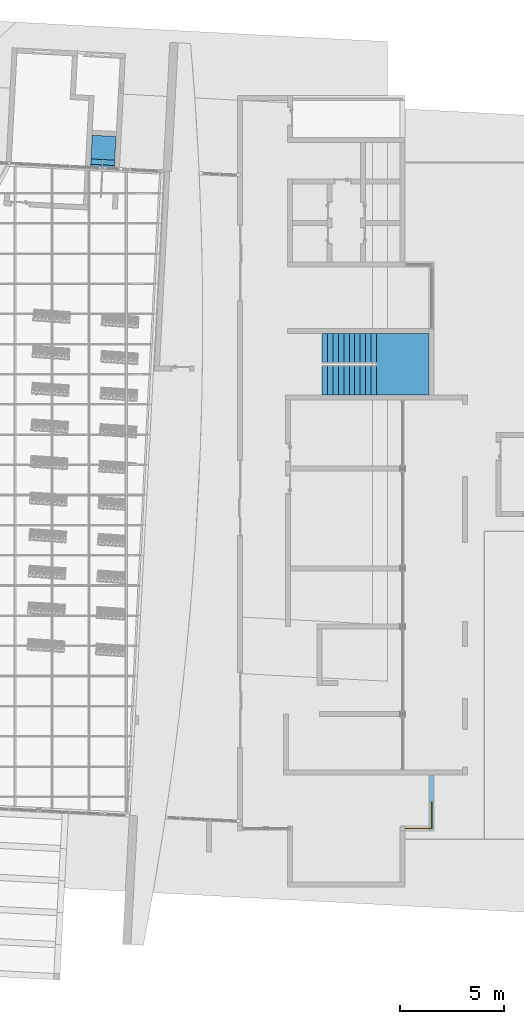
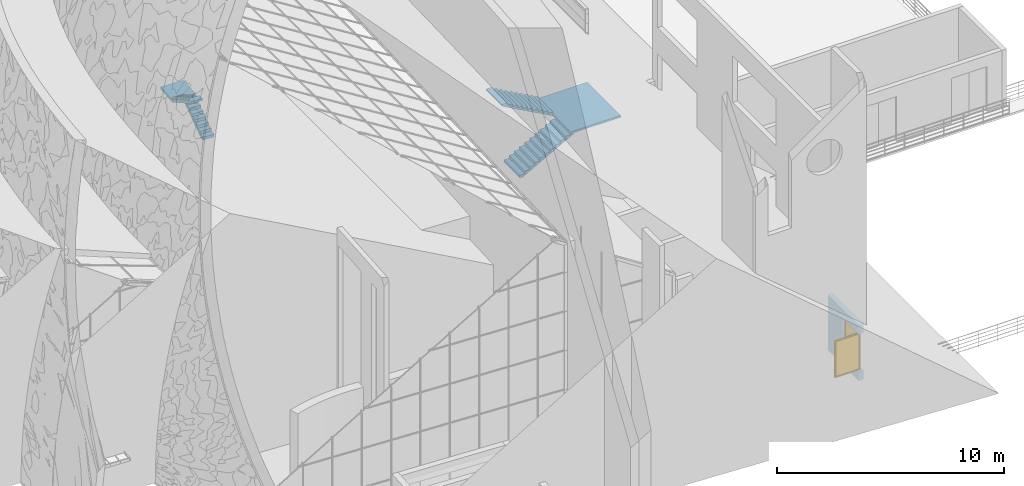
# One storey, part 71 of 82: 2 stair flights, 1 window, 1 opening, 2 elements without a shape of their own, plus 1 element that does not belong to this part.
"""IFC2X3 building model written with IfcOpenShell, lengths in millimetres."""

from ifc_helpers import new_model, entity, si_unit, converted_unit, derived_unit, direction, frame, frame_2d, origin, place, context, subcontext, project, spatial, rectangle, extrude, faceted_brep, source, transform, mapped, material, material_list, layer, layer_set, layer_usage, type_object, type_shapes, element, fill, aggregate, save


model = new_model("IFC2X3")

# Units and contexts
model_context = context("Model", 3, precision=0.01, world=origin(), true_north=direction((6.12303176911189e-17, 1.0)))
body_context = subcontext(model_context, "Body", "Model", "MODEL_VIEW")
ifc_project = project(units=[si_unit("LENGTHUNIT", "METRE", prefix="MILLI"), si_unit("AREAUNIT", "SQUARE_METRE"), si_unit("VOLUMEUNIT", "CUBIC_METRE"), converted_unit("PLANEANGLEUNIT", "DEGREE", entity("IfcRatioMeasure", 0.0174532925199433), si_unit("PLANEANGLEUNIT", "RADIAN"), dimensions=[0, 0, 0, 0, 0, 0, 0]), si_unit("MASSUNIT", "GRAM", prefix="KILO"), derived_unit("MASSDENSITYUNIT", [(si_unit("MASSUNIT", "GRAM", prefix="KILO"), 1), (si_unit("LENGTHUNIT", "METRE"), -3)]), si_unit("TIMEUNIT", "SECOND"), si_unit("FREQUENCYUNIT", "HERTZ"), si_unit("THERMODYNAMICTEMPERATUREUNIT", "DEGREE_CELSIUS"), derived_unit("THERMALTRANSMITTANCEUNIT", [(si_unit("MASSUNIT", "GRAM", prefix="KILO"), 1), (si_unit("THERMODYNAMICTEMPERATUREUNIT", "KELVIN"), -1), (si_unit("TIMEUNIT", "SECOND"), -3)]), derived_unit("VOLUMETRICFLOWRATEUNIT", [(si_unit("LENGTHUNIT", "METRE"), 3), (si_unit("TIMEUNIT", "SECOND"), -1)]), si_unit("ELECTRICCURRENTUNIT", "AMPERE"), si_unit("ELECTRICVOLTAGEUNIT", "VOLT"), si_unit("POWERUNIT", "WATT"), si_unit("FORCEUNIT", "NEWTON", prefix="KILO"), si_unit("ILLUMINANCEUNIT", "LUX"), si_unit("LUMINOUSFLUXUNIT", "LUMEN"), si_unit("LUMINOUSINTENSITYUNIT", "CANDELA"), derived_unit("USERDEFINED", [(si_unit("MASSUNIT", "GRAM", prefix="KILO"), -1), (si_unit("LENGTHUNIT", "METRE"), -2), (si_unit("TIMEUNIT", "SECOND"), 3), (si_unit("LUMINOUSFLUXUNIT", "LUMEN"), 1)]), derived_unit("LINEARVELOCITYUNIT", [(si_unit("LENGTHUNIT", "METRE"), 1), (si_unit("TIMEUNIT", "SECOND"), -1)]), si_unit("PRESSUREUNIT", "PASCAL"), derived_unit("USERDEFINED", [(si_unit("LENGTHUNIT", "METRE"), -2), (si_unit("MASSUNIT", "GRAM", prefix="KILO"), 1), (si_unit("TIMEUNIT", "SECOND"), -2)])], contexts=[model_context])

# Site, building, storey
site_placement = place(None, origin())
site = spatial("IfcSite", under=ifc_project, at=site_placement, Name="表面", CompositionType="ELEMENT")
building_placement = place(site_placement, origin())
building = spatial("IfcBuilding", under=site, at=building_placement, CompositionType="ELEMENT")
storey_placement = place(building_placement, origin())
storey = spatial("IfcBuildingStorey", under=building, at=storey_placement, Name="1F", CompositionType="ELEMENT", Elevation=0.0)

# Wall, opening, window
ifc_material_1 = material(Name="白色涂料")
ifc_layer_1 = layer(ifc_material_1, 10.0)
ifc_material_2 = material(Name="默认墙")
ifc_layer_2 = layer(ifc_material_2, 220.0)
ifc_layer_3 = layer(ifc_material_1, 10.0)
ifc_layer_set = layer_set([ifc_layer_1, ifc_layer_2, ifc_layer_3], Name="基本墙:粉刷墙240")
ifc_layer_usage = layer_usage(ifc_layer_set, "AXIS2", "NEGATIVE", 120.0)
wall_type = type_object("IfcWallType", Name="基本墙:粉刷墙240", PredefinedType="STANDARD", material=ifc_layer_set)
wall_placement = place(storey_placement, frame((-5230.24991264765, -26836.868426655, 0.0), z_axis=(0.0, 0.0, 1.0), x_axis=(0.0, -1.0, 0.0)))
wall = element("IfcWallStandardCase", 1, at=wall_placement, inside=storey, type_object=wall_type, material=ifc_layer_usage, Name="基本墙:粉刷墙240", ObjectType="基本墙:粉刷墙240", context=body_context, shape_type="SweptSolid", body=[
    extrude(rectangle(XDim=2700.0, YDim=240.0, at=frame_2d((1350.0, 2.8421709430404e-14), x_axis=(-1.0, 0.0))), origin(), (0.0, 0.0, 1.0), 3000.00000000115),
])
opening_placement = place(wall_placement, frame((2700.0, -1280.0, 500.0), z_axis=(0.0, 0.0, 1.0), x_axis=(0.0, 1.0, 0.0)))
opening = element("IfcOpeningElement", 2, at=opening_placement, cuts=wall, Name="基本墙:粉刷墙240", ObjectType="Opening", context=body_context, shape_type="Brep", body=[
    faceted_brep([(1160.0, 1420.0, 0.0), (1160.0, 1420.0, 2000.0), (1400.0, 1420.0, 2000.0), (1400.0, 1420.0, 0.0), (1160.0, 240.0, 0.0), (1160.0, 240.0, 2000.0), (0.0, 240.0, 2000.0), (0.0, 0.0, 2000.0), (1400.0, 0.0, 2000.0), (1400.0, 0.0, 0.0), (0.0, 0.0, 0.0), (0.0, 240.0, 0.0)], [[[0, 1, 2, 3]], [[1, 0, 4, 5]], [[2, 1, 5, 6, 7, 8]], [[3, 2, 8, 9]], [[0, 3, 9, 10, 11, 4]], [[11, 10, 7, 6]], [[5, 4, 11, 6]], [[9, 8, 7, 10]]]),
])
ifc_material_3 = material(Name="玻璃")
ifc_material_4 = material(Name="铝")
ifc_material_list_1 = material_list([ifc_material_3, ifc_material_4])
ifc_material_list_2 = material_list([ifc_material_3, ifc_material_4])
window_style = type_object("IfcWindowStyle", Name="C1313", ConstructionType="NOTDEFINED", OperationType="NOTDEFINED", ParameterTakesPrecedence=False, Sizeable=False, material=ifc_material_list_2)
shared_shape = source(origin(), body_context, "Body", "Brep", [
    faceted_brep([(1310.0, -1340.0, 1940.0), (1310.0, -1340.0, 60.0), (1310.0, -150.0, 60.0), (1310.0, -150.0, 1940.0), (1290.0, -1340.0, 1940.0), (1290.0, -1340.0, 60.0), (1290.0, -150.0, 60.0), (1290.0, -150.0, 1940.0)], [[[0, 1, 2, 3]], [[1, 0, 4, 5]], [[2, 1, 5, 6]], [[3, 2, 6, 7]], [[4, 7, 6, 5]], [[0, 3, 7, 4]]]),
    faceted_brep([(1270.0, -130.0, 1940.0), (60.0, -130.0, 1940.0), (60.0, -130.0, 60.0), (1270.0, -130.0, 60.0), (60.0, -110.0, 1940.0), (60.0, -110.0, 60.0), (1270.0, -110.0, 60.0), (1270.0, -110.0, 1940.0)], [[[0, 1, 2, 3]], [[2, 1, 4, 5]], [[3, 2, 5, 6]], [[0, 3, 6, 7]], [[7, 6, 5, 4]], [[1, 0, 7, 4]]]),
    faceted_brep([(0.0, -90.0, 2000.0), (0.0, -90.0, 0.0), (0.0, -150.0, 0.0), (0.0, -150.0, 2000.0), (1330.0, -90.0, 2000.0), (1330.0, -90.0, 0.0), (1270.0, -90.0, 60.0), (1270.0, -90.0, 1940.0), (60.0, -90.0, 1940.0), (60.0, -90.0, 60.0), (1330.0, -1400.0, 0.0), (1270.0, -1400.0, 0.0), (1270.0, -150.0, 0.0), (1270.0, -150.0, 60.0), (60.0, -150.0, 60.0), (60.0, -150.0, 1940.0), (1270.0, -150.0, 1940.0), (1270.0, -150.0, 2000.0), (1330.0, -1400.0, 2000.0), (1330.0, -1340.0, 1940.0), (1330.0, -150.0, 1940.0), (1330.0, -150.0, 60.0), (1330.0, -1340.0, 60.0), (1270.0, -1400.0, 2000.0), (1270.0, -1340.0, 60.0), (1270.0, -1340.0, 1940.0)], [[[0, 1, 2, 3]], [[1, 0, 4, 5], [6, 7, 8, 9]], [[2, 1, 5, 10, 11, 12]], [[3, 2, 12, 13, 14, 15, 16, 17]], [[5, 4, 18, 10], [19, 20, 21, 22]], [[16, 7, 6, 13]], [[14, 9, 8, 15]], [[13, 6, 9, 14]], [[11, 10, 18, 23]], [[20, 16, 13, 21]], [[21, 13, 24, 22]], [[25, 19, 22, 24]], [[0, 3, 17, 23, 18, 4]], [[7, 16, 15, 8]], [[16, 20, 19, 25]], [[12, 11, 23, 17, 16, 25, 24, 13]]]),
])
type_shapes(window_style, [shared_shape])
window_placement = place(opening_placement, frame((1400.0, 1420.0, 0.0), z_axis=(0.0, 0.0, 1.0), x_axis=(0.0, -1.0, 0.0)))
window = element("IfcWindow", 3, at=window_placement, inside=storey, type_object=window_style, material=ifc_material_list_1, Name="转角窗:C1313", ObjectType="C1313", OverallHeight=2000.00000000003, OverallWidth=2120.0, context=body_context, shape_type="MappedRepresentation", body=[
    mapped(shared_shape, transform((0.0, 0.0, 0.0), scale=1.0)),
])
fill(opening, window)

# Stair, stair flight
stair_1_placement = place(storey_placement, origin())
stair_1 = element("IfcStair", 4, at=stair_1_placement, inside=storey, ShapeType="NOTDEFINED")
ifc_material_5 = material(Name="混凝土 - 现场浇注")
stair_flight_1_placement = place(stair_1_placement, origin())
stair_flight_1 = element("IfcStairFlight", 5, at=stair_flight_1_placement, material=ifc_material_5, Name="楼梯:整体式楼梯:1", ObjectType="楼梯:整体式楼梯", NumberOfRiser=11, NumberOfTreads=10, RiserHeight=0.468691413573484, TreadLength=0.853018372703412, context=body_context, shape_type="Brep", body=[
    faceted_brep([(-10324.1193615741, -7187.84591297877, 0.0), (-7646.11936157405, -7187.84591297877, 1471.42857142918), (-7646.11936157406, -8587.84591297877, 1471.42857142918), (-7890.24991264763, -8587.84591297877, 1337.29090600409), (-10324.1193615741, -8587.84591297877, 0.0), (-7890.24991264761, -7027.84591297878, 1471.42857142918), (-7874.38046372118, -7027.84591297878, 1471.42857142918), (-7874.38046372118, -5627.84591297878, 1471.42857142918), (-5350.24991264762, -5627.84591297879, 1471.42857142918), (-5350.24991264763, -8587.84591297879, 1471.42857142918), (-7890.24991264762, -7187.84591297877, 1471.42857142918), (-7890.24991264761, -7027.84591297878, 1480.14804886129), (-10490.2499126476, -7027.84591297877, 2908.71947743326), (-10490.2499126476, -5627.84591297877, 2908.71947743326), (-10230.2499126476, -7187.84591297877, 142.857142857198), (-10490.2499126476, -7187.84591297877, 142.857142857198), (-10490.2499126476, -8587.84591297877, 142.857142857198), (-10230.2499126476, -8587.84591297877, 142.857142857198), (-10230.2499126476, -7187.84591297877, 285.714285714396), (-9970.24991264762, -7187.84591297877, 285.714285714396), (-9970.24991264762, -7187.84591297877, 428.571428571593), (-9710.24991264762, -7187.84591297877, 428.571428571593), (-9710.24991264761, -7187.84591297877, 571.428571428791), (-9450.24991264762, -7187.84591297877, 571.428571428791), (-9450.24991264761, -7187.84591297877, 714.285714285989), (-9190.24991264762, -7187.84591297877, 714.285714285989), (-9190.24991264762, -7187.84591297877, 857.142857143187), (-8930.24991264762, -7187.84591297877, 857.142857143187), (-8930.24991264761, -7187.84591297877, 1000.0), (-8670.24991264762, -7187.84591297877, 1000.0), (-8670.24991264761, -7187.84591297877, 1142.85714285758), (-8410.24991264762, -7187.84591297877, 1142.85714285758), (-8410.24991264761, -7187.84591297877, 1285.71428571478), (-8150.24991264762, -7187.84591297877, 1285.71428571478), (-8150.24991264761, -7187.84591297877, 1428.57142857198), (-7890.24991264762, -7187.84591297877, 1428.57142857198), (-10490.2499126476, -7187.84591297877, 0.0), (-10490.2499126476, -8587.84591297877, 0.0), (-5350.24991264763, -8587.84591297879, 1571.42857142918), (-7890.24991264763, -8587.84591297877, 1571.42857142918), (-7890.24991264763, -8587.84591297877, 1428.57142857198), (-8150.24991264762, -8587.84591297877, 1428.57142857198), (-8150.24991264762, -8587.84591297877, 1285.71428571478), (-8410.24991264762, -8587.84591297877, 1285.71428571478), (-8410.24991264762, -8587.84591297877, 1142.85714285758), (-8670.24991264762, -8587.84591297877, 1142.85714285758), (-8670.24991264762, -8587.84591297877, 1000.0), (-8930.24991264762, -8587.84591297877, 1000.0), (-8930.24991264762, -8587.84591297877, 857.142857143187), (-9190.24991264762, -8587.84591297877, 857.142857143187), (-9190.24991264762, -8587.84591297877, 714.285714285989), (-9450.24991264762, -8587.84591297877, 714.285714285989), (-9450.24991264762, -8587.84591297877, 571.428571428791), (-9710.24991264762, -8587.84591297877, 571.428571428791), (-9710.24991264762, -8587.84591297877, 428.571428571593), (-9970.24991264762, -8587.84591297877, 428.571428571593), (-9970.24991264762, -8587.84591297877, 285.714285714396), (-10230.2499126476, -8587.84591297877, 285.714285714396), (-5350.24991264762, -5627.84591297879, 1571.42857142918), (-7890.24991264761, -5627.84591297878, 1571.42857142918), (-7890.24991264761, -7027.84591297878, 1571.42857142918), (-7890.24991264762, -7187.84591297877, 1571.42857142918), (-10490.2499126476, -5627.84591297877, 3000.0), (-10230.2499126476, -5627.84591297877, 3000.0), (-10230.2499126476, -5627.84591297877, 2857.14285714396), (-9970.24991264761, -5627.84591297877, 2857.14285714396), (-9970.24991264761, -5627.84591297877, 2714.28571428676), (-9710.24991264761, -5627.84591297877, 2714.28571428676), (-9710.24991264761, -5627.84591297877, 2571.42857142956), (-9450.24991264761, -5627.84591297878, 2571.42857142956), (-9450.24991264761, -5627.84591297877, 2428.57142857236), (-9190.24991264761, -5627.84591297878, 2428.57142857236), (-9190.24991264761, -5627.84591297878, 2285.71428571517), (-8930.24991264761, -5627.84591297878, 2285.71428571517), (-8930.24991264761, -5627.84591297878, 2142.85714285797), (-8670.24991264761, -5627.84591297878, 2142.85714285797), (-8670.24991264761, -5627.84591297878, 2000.0), (-8410.24991264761, -5627.84591297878, 2000.0), (-8410.24991264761, -5627.84591297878, 1857.14285714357), (-8150.24991264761, -5627.84591297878, 1857.14285714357), (-8150.24991264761, -5627.84591297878, 1714.28571428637), (-7890.24991264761, -5627.84591297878, 1714.28571428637), (-8150.24991264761, -7027.84591297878, 1714.28571428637), (-7890.24991264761, -7027.84591297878, 1714.28571428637), (-8150.24991264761, -7027.84591297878, 1857.14285714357), (-8410.24991264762, -7027.84591297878, 1857.14285714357), (-8410.24991264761, -7027.84591297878, 2000.0), (-8670.24991264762, -7027.84591297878, 2000.0), (-8670.24991264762, -7027.84591297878, 2142.85714285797), (-8930.24991264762, -7027.84591297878, 2142.85714285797), (-8930.24991264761, -7027.84591297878, 2285.71428571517), (-9190.24991264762, -7027.84591297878, 2285.71428571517), (-9190.24991264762, -7027.84591297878, 2428.57142857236), (-9450.24991264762, -7027.84591297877, 2428.57142857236), (-9450.24991264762, -7027.84591297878, 2571.42857142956), (-9710.24991264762, -7027.84591297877, 2571.42857142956), (-9710.24991264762, -7027.84591297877, 2714.28571428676), (-9970.24991264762, -7027.84591297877, 2714.28571428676), (-9970.24991264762, -7027.84591297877, 2857.14285714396), (-10230.2499126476, -7027.84591297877, 2857.14285714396), (-10230.2499126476, -7027.84591297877, 3000.0), (-10490.2499126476, -7027.84591297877, 3000.0)], [[[0, 1, 2, 3, 4]], [[5, 6, 7, 8, 9, 2, 1, 10]], [[7, 6, 11, 12, 13]], [[14, 15, 16, 17]], [[15, 14, 18, 19, 20, 21, 22, 23, 24, 25, 26, 27, 28, 29, 30, 31, 32, 33, 34, 35, 10, 1, 0, 36]], [[16, 15, 36, 37]], [[17, 16, 37, 4, 3, 2, 9, 38, 39, 40, 41, 42, 43, 44, 45, 46, 47, 48, 49, 50, 51, 52, 53, 54, 55, 56, 57]], [[19, 18, 57, 56]], [[14, 17, 57, 18]], [[21, 20, 55, 54]], [[20, 19, 56, 55]], [[23, 22, 53, 52]], [[22, 21, 54, 53]], [[25, 24, 51, 50]], [[24, 23, 52, 51]], [[27, 26, 49, 48]], [[26, 25, 50, 49]], [[29, 28, 47, 46]], [[28, 27, 48, 47]], [[31, 30, 45, 44]], [[30, 29, 46, 45]], [[33, 32, 43, 42]], [[32, 31, 44, 43]], [[39, 38, 58, 59, 60, 61]], [[37, 36, 0, 4]], [[6, 5, 11]], [[35, 34, 41, 40]], [[34, 33, 42, 41]], [[61, 60, 11, 5, 10]], [[40, 39, 61, 10, 35]], [[58, 38, 9, 8]], [[59, 58, 8, 7, 13, 62, 63, 64, 65, 66, 67, 68, 69, 70, 71, 72, 73, 74, 75, 76, 77, 78, 79, 80, 81]], [[81, 80, 82, 83]], [[83, 82, 84, 85, 86, 87, 88, 89, 90, 91, 92, 93, 94, 95, 96, 97, 98, 99, 100, 101, 12, 11, 60]], [[60, 59, 81, 83]], [[79, 78, 85, 84]], [[80, 79, 84, 82]], [[77, 76, 87, 86]], [[78, 77, 86, 85]], [[75, 74, 89, 88]], [[76, 75, 88, 87]], [[73, 72, 91, 90]], [[74, 73, 90, 89]], [[71, 70, 93, 92]], [[72, 71, 92, 91]], [[69, 68, 95, 94]], [[70, 69, 94, 93]], [[67, 66, 97, 96]], [[68, 67, 96, 95]], [[65, 64, 99, 98]], [[66, 65, 98, 97]], [[63, 62, 101, 100]], [[64, 63, 100, 99]], [[101, 62, 13, 12]]]),
])
aggregate(stair_1, [stair_flight_1])

stair_2_placement = place(storey_placement, origin())
stair_2 = element("IfcStair", 6, at=stair_2_placement, inside=storey, ShapeType="NOTDEFINED")
stair_flight_2_placement = place(stair_2_placement, origin())
stair_flight_2 = element("IfcStairFlight", 7, at=stair_flight_2_placement, Name="楼梯:室外楼梯:1", ObjectType="楼梯:室外楼梯", NumberOfRiser=8, NumberOfTreads=7, RiserHeight=0.492125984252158, TreadLength=0.853018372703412, context=body_context, shape_type="Brep", body=[
    faceted_brep([(-21107.531250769, 1114.06647990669, 0.0), (-21009.5583406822, 2983.50096896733, 1080.0), (-20450.3258012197, 2954.19283347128, 1080.0), (-20463.5202756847, 2702.4272626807, 934.551299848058), (-20548.2987113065, 1084.75834441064, 0.0), (-21042.7254058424, 2732.78211730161, 1080.0), (-21042.3125316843, 2740.66022554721, 1080.0), (-21601.5450711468, 2769.96836104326, 1080.0), (-21542.294955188, 3900.52792241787, 1080.0), (-20403.8572855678, 3840.86493230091, 1080.0), (-21022.7528151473, 2731.73539817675, 1080.0), (-21042.7254058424, 2732.78211730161, 1084.55129984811), (-21137.9768462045, 915.276364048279, 2134.55129984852), (-21697.2093856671, 944.58449954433, 2134.55129984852), (-21104.3969068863, 1173.87332395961, 150.0), (-21118.0042555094, 914.229644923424, 150.0), (-20558.7717160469, 884.921509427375, 150.0), (-20545.1643674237, 1144.56518846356, 150.0), (-21104.3969068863, 1173.87332395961, 300.0), (-21090.7895582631, 1433.5170029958, 300.0), (-21090.7895582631, 1433.5170029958, 450.0), (-21077.1822096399, 1693.16068203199, 450.0), (-21077.1822096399, 1693.16068203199, 600.0), (-21063.5748610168, 1952.80436106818, 600.0), (-21063.5748610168, 1952.80436106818, 750.0), (-21049.9675123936, 2212.44804010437, 750.0), (-21049.9675123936, 2212.44804010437, 900.0), (-21036.3601637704, 2472.09171914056, 900.0), (-21036.3601637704, 2472.09171914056, 1050.0), (-21022.7528151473, 2731.73539817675, 1050.0), (-21118.0042555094, 914.229644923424, 0.0), (-20558.7717160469, 884.921509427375, 0.0), (-20403.8572855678, 3840.86493230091, 1200.0), (-20463.5202756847, 2702.4272626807, 1200.0), (-20463.5202756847, 2702.4272626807, 1050.0), (-20477.1276243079, 2442.78358364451, 1050.0), (-20477.1276243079, 2442.78358364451, 900.0), (-20490.734972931, 2183.13990460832, 900.0), (-20490.734972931, 2183.13990460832, 750.0), (-20504.3423215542, 1923.49622557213, 750.0), (-20504.3423215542, 1923.49622557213, 600.0), (-20517.9496701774, 1663.85254653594, 600.0), (-20517.9496701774, 1663.85254653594, 450.0), (-20531.5570188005, 1404.20886749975, 450.0), (-20531.5570188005, 1404.20886749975, 300.0), (-20545.1643674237, 1144.56518846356, 300.0), (-21542.294955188, 3900.52792241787, 1200.0), (-21601.9579453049, 2762.09025279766, 1200.0), (-21042.7254058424, 2732.78211730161, 1200.0), (-21022.7528151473, 2731.73539817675, 1200.0), (-21697.2093856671, 944.58449954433, 2250.0), (-21683.6020370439, 1204.22817858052, 2250.0), (-21683.6020370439, 1204.22817858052, 2100.0), (-21669.9946884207, 1463.87185761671, 2100.0), (-21669.9946884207, 1463.87185761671, 1950.0), (-21656.3873397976, 1723.5155366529, 1950.0), (-21656.3873397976, 1723.5155366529, 1800.0), (-21642.7799911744, 1983.15921568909, 1800.0), (-21642.7799911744, 1983.15921568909, 1650.0), (-21629.1726425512, 2242.80289472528, 1650.0), (-21629.1726425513, 2242.80289472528, 1500.0), (-21615.5652939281, 2502.44657376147, 1500.0), (-21615.5652939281, 2502.44657376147, 1350.0), (-21601.9579453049, 2762.09025279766, 1350.0), (-21056.3327544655, 2473.13843826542, 1350.0), (-21042.7254058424, 2732.78211730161, 1350.0), (-21056.3327544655, 2473.13843826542, 1500.0), (-21069.9401030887, 2213.49475922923, 1500.0), (-21069.9401030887, 2213.49475922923, 1650.0), (-21083.5474517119, 1953.85108019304, 1650.0), (-21083.5474517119, 1953.85108019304, 1800.0), (-21097.154800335, 1694.20740115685, 1800.0), (-21097.154800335, 1694.20740115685, 1950.0), (-21110.7621489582, 1434.56372212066, 1950.0), (-21110.7621489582, 1434.56372212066, 2100.0), (-21124.3694975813, 1174.92004308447, 2100.0), (-21124.3694975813, 1174.92004308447, 2250.0), (-21137.9768462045, 915.27636404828, 2250.0)], [[[0, 1, 2, 3, 4]], [[5, 6, 7, 8, 9, 2, 1, 10]], [[7, 6, 11, 12, 13]], [[14, 15, 16, 17]], [[15, 14, 18, 19, 20, 21, 22, 23, 24, 25, 26, 27, 28, 29, 10, 1, 0, 30]], [[16, 15, 30, 31]], [[17, 16, 31, 4, 3, 2, 9, 32, 33, 34, 35, 36, 37, 38, 39, 40, 41, 42, 43, 44, 45]], [[19, 18, 45, 44]], [[14, 17, 45, 18]], [[21, 20, 43, 42]], [[20, 19, 44, 43]], [[23, 22, 41, 40]], [[22, 21, 42, 41]], [[25, 24, 39, 38]], [[24, 23, 40, 39]], [[27, 26, 37, 36]], [[26, 25, 38, 37]], [[29, 28, 35, 34]], [[28, 27, 36, 35]], [[31, 30, 0, 4]], [[6, 5, 11]], [[33, 32, 46, 47, 48, 49]], [[49, 48, 11, 5, 10]], [[34, 33, 49, 10, 29]], [[46, 32, 9, 8]], [[47, 46, 8, 7, 13, 50, 51, 52, 53, 54, 55, 56, 57, 58, 59, 60, 61, 62, 63]], [[63, 62, 64, 65]], [[65, 64, 66, 67, 68, 69, 70, 71, 72, 73, 74, 75, 76, 77, 12, 11, 48]], [[48, 47, 63, 65]], [[61, 60, 67, 66]], [[62, 61, 66, 64]], [[59, 58, 69, 68]], [[60, 59, 68, 67]], [[57, 56, 71, 70]], [[58, 57, 70, 69]], [[55, 54, 73, 72]], [[56, 55, 72, 71]], [[53, 52, 75, 74]], [[54, 53, 74, 73]], [[51, 50, 77, 76]], [[52, 51, 76, 75]], [[77, 50, 13, 12]]]),
])
aggregate(stair_2, [stair_flight_2])

save(model, "model.ifc")
